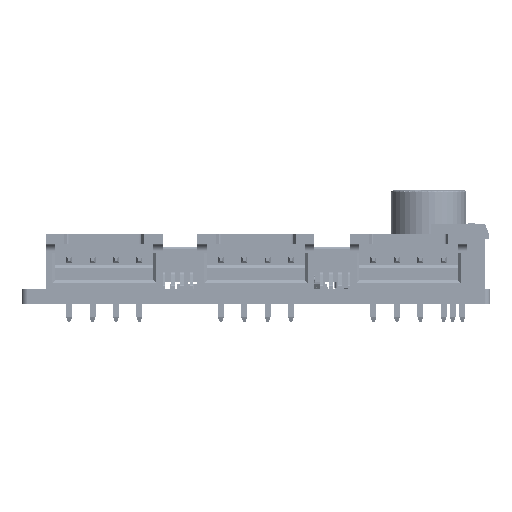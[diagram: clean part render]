
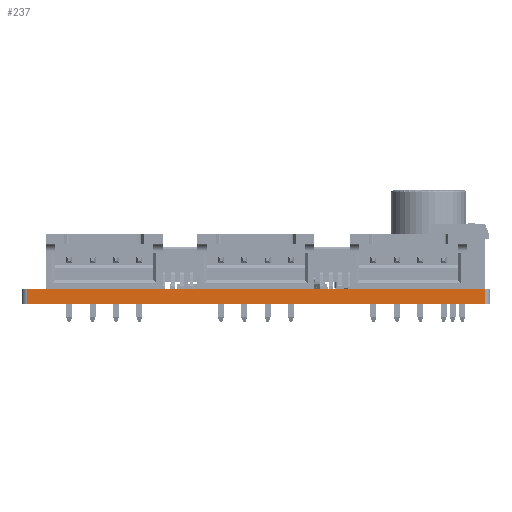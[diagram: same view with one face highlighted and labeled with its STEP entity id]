
A CAD part, front view. The second image highlights one B-rep face of the part: STEP entity #237.
In plain terms, the highlighted planar face has unit normal (0, -1, 0).
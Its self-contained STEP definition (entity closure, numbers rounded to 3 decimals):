
#210 = VERTEX_POINT('',#211);
#211 = CARTESIAN_POINT('',(49.4,0.013,    1.6));
#218 = EDGE_CURVE('',#219,#210,#221,.T.);
#219 = VERTEX_POINT('',#220);
#220 = CARTESIAN_POINT('',(49.4,0.013,0.));
#221 = LINE('',#222,#223);
#222 = CARTESIAN_POINT('',(49.4,0.013,0.));
#223 = VECTOR('',#224,1.);
#224 = DIRECTION('',(0.,0.,1.));
#237 = ADVANCED_FACE('',(#238),#263,.T.);
#238 = FACE_BOUND('',#239,.T.);
#239 = EDGE_LOOP('',(#240,#241,#249,#257));
#240 = ORIENTED_EDGE('',*,*,#218,.T.);
#241 = ORIENTED_EDGE('',*,*,#242,.T.);
#242 = EDGE_CURVE('',#210,#243,#245,.T.);
#243 = VERTEX_POINT('',#244);
#244 = CARTESIAN_POINT('',(0.6,0.013,    1.6));
#245 = LINE('',#246,#247);
#246 = CARTESIAN_POINT('',(49.4,0.013,    1.6));
#247 = VECTOR('',#248,1.);
#248 = DIRECTION('',(-1.,0.,0.));
#249 = ORIENTED_EDGE('',*,*,#250,.F.);
#250 = EDGE_CURVE('',#251,#243,#253,.T.);
#251 = VERTEX_POINT('',#252);
#252 = CARTESIAN_POINT('',(0.6,0.013,0.));
#253 = LINE('',#254,#255);
#254 = CARTESIAN_POINT('',(0.6,0.013,0.));
#255 = VECTOR('',#256,1.);
#256 = DIRECTION('',(0.,0.,1.));
#257 = ORIENTED_EDGE('',*,*,#258,.F.);
#258 = EDGE_CURVE('',#219,#251,#259,.T.);
#259 = LINE('',#260,#261);
#260 = CARTESIAN_POINT('',(49.4,0.013,0.));
#261 = VECTOR('',#262,1.);
#262 = DIRECTION('',(-1.,0.,0.));
#263 = PLANE('',#264);
#264 = AXIS2_PLACEMENT_3D('',#265,#266,#267);
#265 = CARTESIAN_POINT('',(49.4,0.013,0.));
#266 = DIRECTION('',(0.,-1.,0.));
#267 = DIRECTION('',(-1.,0.,0.));
